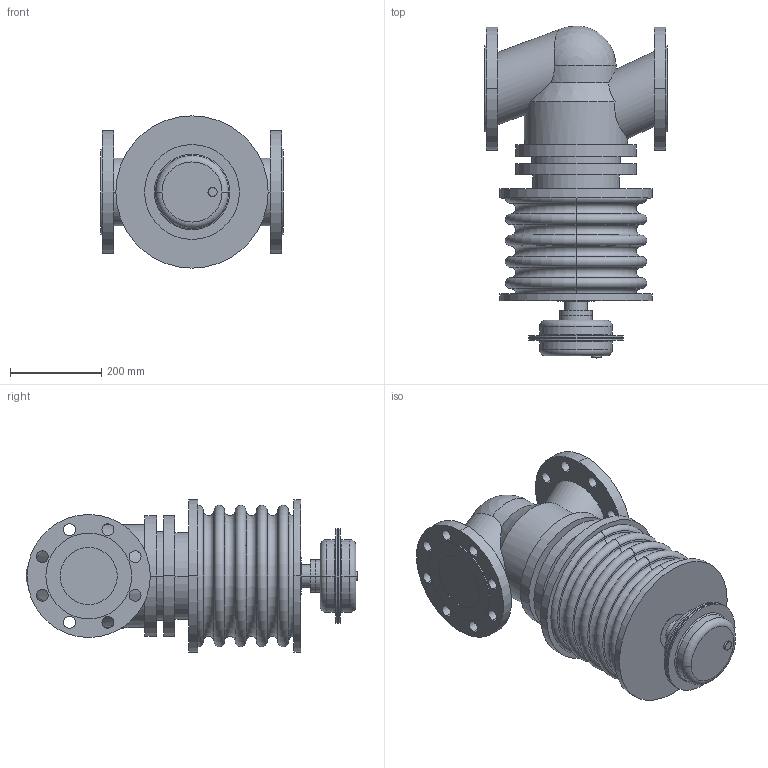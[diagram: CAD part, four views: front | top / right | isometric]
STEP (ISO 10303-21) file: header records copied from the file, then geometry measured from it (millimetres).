
FILE_DESCRIPTION(('Creo Elements/Direct Modeling STEP Export'),'2;1');
FILE_NAME('c000004961.stp','2012-06-25T12:49:12',(''),(''),'Creo Elements/Direct Modeling STEP processor for AP203 (Solid Model)','Creo Elements/Direct Modeling 17.0D 15-Jul-2011 (C) Parametric Technology GmbH','');
FILE_SCHEMA(('CONFIG_CONTROL_DESIGN'));
Length unit declared in the file: millimetre
Products named in the file (2): 1; 2
Bounding box: 400 x 728.06 x 334 mm (x, y, z)
Volume: 35977940.4 mm3; surface area: 1271027.5 mm2
Topology: 2 solids, 2 shells, 174 faces, 411 edges, 264 vertices
Faces by surface type: cylinder 83, plane 42, torus 28, cone 20, sphere 1
Entity records: 5428 total; most frequent: CARTESIAN_POINT 1045, ORIENTED_EDGE 818, DIRECTION 760, SURFACE_CURVE 409, EDGE_CURVE 409, AXIS2_PLACEMENT_3D 313, VERTEX_POINT 264, EDGE_LOOP 231
